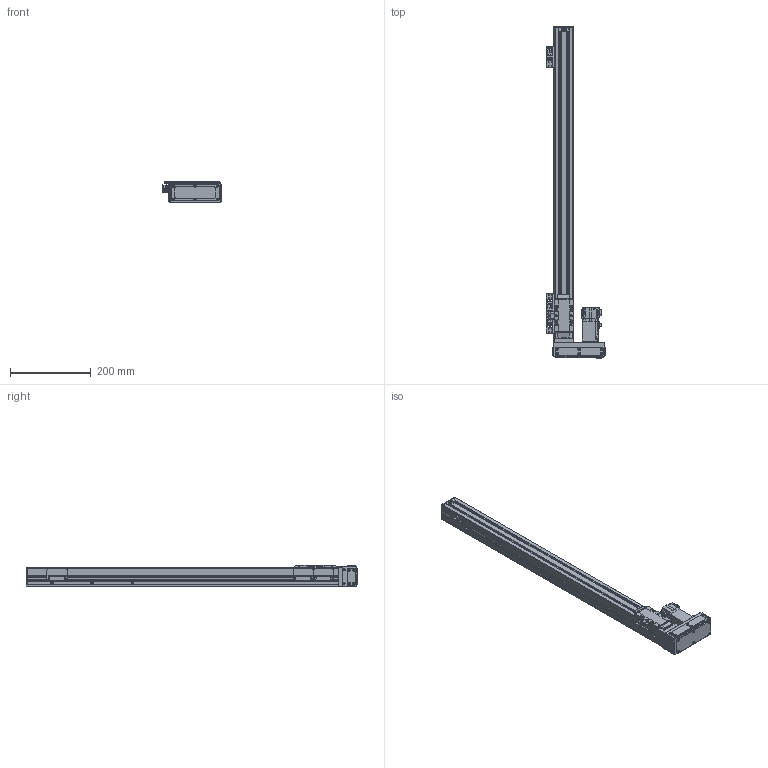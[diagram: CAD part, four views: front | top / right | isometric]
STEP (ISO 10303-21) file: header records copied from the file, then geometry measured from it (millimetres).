
FILE_DESCRIPTION(/* description */ (''),/* implementation_level */ '2;1');
FILE_NAME(/* name */ '\\192.168.0.160\disk1\HAN SHIN Master\B-설계부문\C-표준\B-2024년\BC02-표준도면\+로봇 개선표준도면\홈페이지 표준 도면\표준 승인도 폴더 - 재작업\3D\HC Type\HC50 - 재작업\R-Type\HC50-R10-N-0650-L10.stp',/* time_stamp */ '2024-11-29T12:38:04+09:00',/* author */ ('user'),/* organization */ (''),/* preprocessor_version */ 'ST-DEVELOPER v18.1',/* originating_system */ 'Autodesk Inventor 2022',/* authorisation */ '');
FILE_SCHEMA (('AUTOMOTIVE_DESIGN { 1 0 10303 214 3 1 1 }'));
Length unit declared in the file: millimetre
Products named in the file (27): HC50-R10-N-0200-L10; HC50 BASE-R1; HC50 REAR BLOCK; HR45 FRONT BLOCK; 45- BEARING COVER; HC45 UPCOVER; HC75,90 SHEET PLATE; HC45, HC65 STOPPER; MAGNET(∅10X3); HC50 REAR COVER-R3; ESF1210 NUT; HC45 TABLE; HC75 TABLE COVER; HC45 TABLE SIDE COVER; hg-kr13_; HR45 ACRYL COVER(측면); HR45 MOTOR PLATE 100W; HR45 ACRYL COVER(정면); HR45 LR BELT COVER; HR45 ACRYL COVER(상하면); HC50 L MOTOR PLATE_MIR; SENSOR DOG BRK; HC50 SENSOR DOG; ISO 4762 - M3 x 16; HC50SIDECOVER000; SENSOR BRK(EE-SX674A); EE_SX674A
Assembly tree (38 placements, depth 2):
  HC50-R10-N-0200-L10
    HC50 BASE-R1
    HC50 REAR BLOCK
    HR45 FRONT BLOCK
    45- BEARING COVER
    HC45 UPCOVER
    HC75,90 SHEET PLATE  x2
    HC45, HC65 STOPPER  x2
    MAGNET(∅10X3)  x3
    HC50 REAR COVER-R3
    ESF1210 NUT
    HC50SIDECOVER000  x2
    HC45 TABLE SIDE COVER  x2
    HC45 TABLE
    HC75 TABLE COVER
    hg-kr13_
    HR45 ACRYL COVER(측면)
    HR45 MOTOR PLATE 100W
    HR45 ACRYL COVER(정면)
    HR45 ACRYL COVER(상하면)  x2
    HR45 LR BELT COVER
    HC50 L MOTOR PLATE_MIR
    SENSOR BRK(EE-SX674A)  x3
    EE_SX674A  x3
    SENSOR DOG BRK
    HC50 SENSOR DOG
    ISO 4762 - M3 x 16  x2
Bounding box: 148 x 823 x 54 mm (x, y, z)
Volume: 838945.3 mm3; surface area: 582335.3 mm2
Topology: 40 solids, 40 shells, 1581 faces, 4223 edges, 2772 vertices
Faces by surface type: plane 866, cylinder 614, cone 88, bspline 9, torus 4
Full cylindrical faces by diameter (mm): 2.013 x4, 2.459 x97, 3 x2, 3.242 x28, 3.4 x32, 3.5 x44, 4 x12, 4.5 x12, 5 x14, 5.5 x2, 5.6 x2, 5.9 x2, 6 x21, 6.5 x2, 8 x1, 9 x2, 10 x4, 10.5 x1, 12 x1, 15 x3, 17 x1, 18 x1, 21 x2, 22 x4, 24 x1, 24.5 x1, 26 x1, 30 x2
Entity records: 41138 total; most frequent: CARTESIAN_POINT 7864, DIRECTION 6777, ORIENTED_EDGE 6494, EDGE_CURVE 3247, AXIS2_PLACEMENT_3D 2313, VERTEX_POINT 2155, LINE 2151, VECTOR 2151
